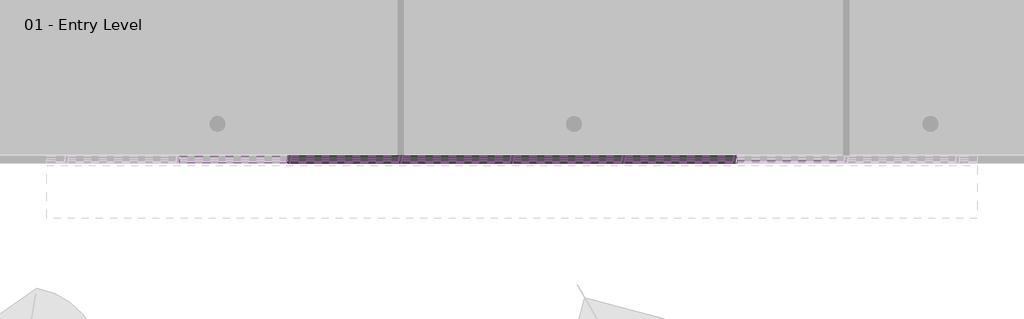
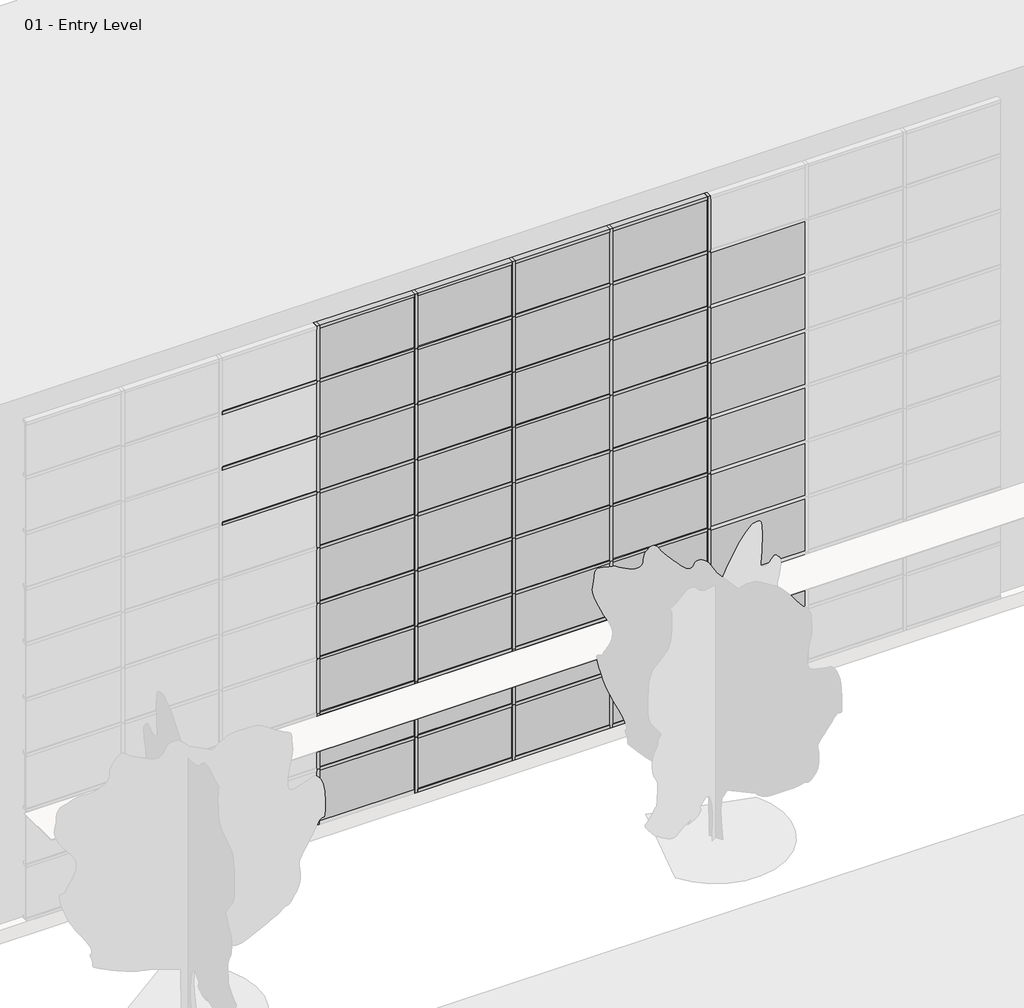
# One storey, part 3 of 34: 88 members, 44 plates.
"""IFC4 building model written with IfcOpenShell, lengths in millimetres."""

from ifc_helpers import new_model, si_unit, origin, place, context, project, spatial, transform, mapped, element, save
from components import member_2b49869a, member_391b434c, member_9e90ae50, system_panel_glazed_1b9d6098, system_panel_glazed_70da479d, system_panel_solid_b376696c, system_panel_solid_77e8b053

model = new_model("IFC4")

# Units and contexts
model_context = context("Model", 3, world=origin())
ifc_project = project(units=[si_unit("LENGTHUNIT", "METRE", prefix="MILLI")], contexts=[model_context])

# Site, building, storey
site = spatial("IfcSite", under=ifc_project)
building = spatial("IfcBuilding", under=site)
storey = spatial("IfcBuildingStorey", under=building, Name="01 - Entry Level", Elevation=0.0)

# Members
placement = place(None, origin())
member_shape = member_2b49869a(model_context)
element("IfcMember", 1, ObjectType="Rectangular Mullion : 2.5\" x 5\" rectangular", at=placement, inside=storey, context=model_context, shape_type="MappedRepresentation", body=[
    mapped(member_shape, transform((30595.2207476, -47.7, 9753.6), x_axis=(1.0, 0.0, 0.0), y_axis=(0.0, -1.0, 0.0), z_axis=(0.0, 0.0, -1.0))),
])
element("IfcMember", 2, ObjectType="Rectangular Mullion : 2.5\" x 5\" rectangular", at=placement, inside=storey, context=model_context, shape_type="MappedRepresentation", body=[
    mapped(member_shape, transform((32627.2207476, -47.7, 9753.6), x_axis=(1.0, 0.0, 0.0), y_axis=(0.0, -1.0, 0.0), z_axis=(0.0, 0.0, -1.0))),
])
element("IfcMember", 3, ObjectType="Rectangular Mullion : 2.5\" x 5\" rectangular", at=placement, inside=storey, context=model_context, shape_type="MappedRepresentation", body=[
    mapped(member_shape, transform((34659.2207476, -47.7, 9753.6), x_axis=(1.0, 0.0, 0.0), y_axis=(0.0, -1.0, 0.0), z_axis=(0.0, 0.0, -1.0))),
])
element("IfcMember", 4, ObjectType="Rectangular Mullion : 2.5\" x 5\" rectangular", at=placement, inside=storey, context=model_context, shape_type="MappedRepresentation", body=[
    mapped(member_shape, transform((36691.2207476, -47.7, 9753.6), x_axis=(1.0, 0.0, 0.0), y_axis=(0.0, -1.0, 0.0), z_axis=(0.0, 0.0, -1.0))),
])
element("IfcMember", 5, ObjectType="Rectangular Mullion : 2.5\" x 5\" rectangular", at=placement, inside=storey, context=model_context, shape_type="MappedRepresentation", body=[
    mapped(member_shape, transform((38723.2207476, -47.7, 9753.6), x_axis=(1.0, 0.0, 0.0), y_axis=(0.0, -1.0, 0.0), z_axis=(0.0, 0.0, -1.0))),
])
member_2_shape = member_391b434c(model_context)
element("IfcMember", 6, ObjectType="Rectangular Mullion : 2.5\" x 5\" rectangular", at=placement, inside=storey, context=model_context, shape_type="MappedRepresentation", body=[
    mapped(member_2_shape, transform((32595.4707476, -47.7, 10972.8), x_axis=(0.0, 0.0, 1.0), y_axis=(0.0, -1.0, 0.0), z_axis=(1.0, 0.0, 0.0))),
])
element("IfcMember", 7, ObjectType="Rectangular Mullion : 2.5\" x 5\" rectangular", at=placement, inside=storey, context=model_context, shape_type="MappedRepresentation", body=[
    mapped(member_2_shape, transform((34627.4707476, -47.7, 10972.8), x_axis=(0.0, 0.0, 1.0), y_axis=(0.0, -1.0, 0.0), z_axis=(1.0, 0.0, 0.0))),
])
element("IfcMember", 8, ObjectType="Rectangular Mullion : 2.5\" x 5\" rectangular", at=placement, inside=storey, context=model_context, shape_type="MappedRepresentation", body=[
    mapped(member_2_shape, transform((36659.4707476, -47.7, 10972.8), x_axis=(0.0, 0.0, 1.0), y_axis=(0.0, -1.0, 0.0), z_axis=(1.0, 0.0, 0.0))),
])
element("IfcMember", 9, ObjectType="Rectangular Mullion : 2.5\" x 5\" rectangular", at=placement, inside=storey, context=model_context, shape_type="MappedRepresentation", body=[
    mapped(member_2_shape, transform((38691.4707476, -47.7, 10972.8), x_axis=(0.0, 0.0, 1.0), y_axis=(0.0, -1.0, 0.0), z_axis=(1.0, 0.0, 0.0))),
])
element("IfcMember", 10, ObjectType="Rectangular Mullion : 2.5\" x 5\" rectangular", at=placement, inside=storey, context=model_context, shape_type="MappedRepresentation", body=[
    mapped(member_2_shape, transform((32658.9707476, -47.7, 0.0), x_axis=(0.0, 0.0, -1.0), y_axis=(0.0, -1.0, 0.0), z_axis=(-1.0, 0.0, 0.0))),
])
element("IfcMember", 11, ObjectType="Rectangular Mullion : 2.5\" x 5\" rectangular", at=placement, inside=storey, context=model_context, shape_type="MappedRepresentation", body=[
    mapped(member_2_shape, transform((34690.9707476, -47.7, 0.0), x_axis=(0.0, 0.0, -1.0), y_axis=(0.0, -1.0, 0.0), z_axis=(-1.0, 0.0, 0.0))),
])
element("IfcMember", 12, ObjectType="Rectangular Mullion : 2.5\" x 5\" rectangular", at=placement, inside=storey, context=model_context, shape_type="MappedRepresentation", body=[
    mapped(member_2_shape, transform((36722.9707476, -47.7, 0.0), x_axis=(0.0, 0.0, -1.0), y_axis=(0.0, -1.0, 0.0), z_axis=(-1.0, 0.0, 0.0))),
])
element("IfcMember", 13, ObjectType="Rectangular Mullion : 2.5\" x 5\" rectangular", at=placement, inside=storey, context=model_context, shape_type="MappedRepresentation", body=[
    mapped(member_2_shape, transform((38754.9707476, -47.7, 0.0), x_axis=(0.0, 0.0, -1.0), y_axis=(0.0, -1.0, 0.0), z_axis=(-1.0, 0.0, 0.0))),
])
member_3_shape = member_9e90ae50(model_context)
element("IfcMember", 14, ObjectType="Rectangular Mullion : 2.5\" x 5\" rectangular", at=placement, inside=storey, context=model_context, shape_type="MappedRepresentation", body=[
    mapped(member_3_shape, transform((32595.4707476, -47.7, 1219.2), x_axis=(0.0, 0.0, 1.0), y_axis=(0.0, -1.0, 0.0), z_axis=(1.0, 0.0, 0.0))),
])
element("IfcMember", 15, ObjectType="Rectangular Mullion : 2.5\" x 5\" rectangular", at=placement, inside=storey, context=model_context, shape_type="MappedRepresentation", body=[
    mapped(member_3_shape, transform((34627.4707476, -47.7, 1219.2), x_axis=(0.0, 0.0, 1.0), y_axis=(0.0, -1.0, 0.0), z_axis=(1.0, 0.0, 0.0))),
])
element("IfcMember", 16, ObjectType="Rectangular Mullion : 2.5\" x 5\" rectangular", at=placement, inside=storey, context=model_context, shape_type="MappedRepresentation", body=[
    mapped(member_3_shape, transform((36659.4707476, -47.7, 1219.2), x_axis=(0.0, 0.0, 1.0), y_axis=(0.0, -1.0, 0.0), z_axis=(1.0, 0.0, 0.0))),
])
element("IfcMember", 17, ObjectType="Rectangular Mullion : 2.5\" x 5\" rectangular", at=placement, inside=storey, context=model_context, shape_type="MappedRepresentation", body=[
    mapped(member_3_shape, transform((38691.4707476, -47.7, 1219.2), x_axis=(0.0, 0.0, 1.0), y_axis=(0.0, -1.0, 0.0), z_axis=(1.0, 0.0, 0.0))),
])
element("IfcMember", 18, ObjectType="Rectangular Mullion : 2.5\" x 5\" rectangular", at=placement, inside=storey, context=model_context, shape_type="MappedRepresentation", body=[
    mapped(member_3_shape, transform((32595.4707476, -47.7, 2438.4), x_axis=(0.0, 0.0, 1.0), y_axis=(0.0, -1.0, 0.0), z_axis=(1.0, 0.0, 0.0))),
])
element("IfcMember", 19, ObjectType="Rectangular Mullion : 2.5\" x 5\" rectangular", at=placement, inside=storey, context=model_context, shape_type="MappedRepresentation", body=[
    mapped(member_3_shape, transform((34627.4707476, -47.7, 2438.4), x_axis=(0.0, 0.0, 1.0), y_axis=(0.0, -1.0, 0.0), z_axis=(1.0, 0.0, 0.0))),
])
element("IfcMember", 20, ObjectType="Rectangular Mullion : 2.5\" x 5\" rectangular", at=placement, inside=storey, context=model_context, shape_type="MappedRepresentation", body=[
    mapped(member_3_shape, transform((36659.4707476, -47.7, 2438.4), x_axis=(0.0, 0.0, 1.0), y_axis=(0.0, -1.0, 0.0), z_axis=(1.0, 0.0, 0.0))),
])
element("IfcMember", 21, ObjectType="Rectangular Mullion : 2.5\" x 5\" rectangular", at=placement, inside=storey, context=model_context, shape_type="MappedRepresentation", body=[
    mapped(member_3_shape, transform((38691.4707476, -47.7, 2438.4), x_axis=(0.0, 0.0, 1.0), y_axis=(0.0, -1.0, 0.0), z_axis=(1.0, 0.0, 0.0))),
])
element("IfcMember", 22, ObjectType="Rectangular Mullion : 2.5\" x 5\" rectangular", at=placement, inside=storey, context=model_context, shape_type="MappedRepresentation", body=[
    mapped(member_3_shape, transform((32595.4707476, -47.7, 3657.6), x_axis=(0.0, 0.0, 1.0), y_axis=(0.0, -1.0, 0.0), z_axis=(1.0, 0.0, 0.0))),
])
element("IfcMember", 23, ObjectType="Rectangular Mullion : 2.5\" x 5\" rectangular", at=placement, inside=storey, context=model_context, shape_type="MappedRepresentation", body=[
    mapped(member_3_shape, transform((34627.4707476, -47.7, 3657.6), x_axis=(0.0, 0.0, 1.0), y_axis=(0.0, -1.0, 0.0), z_axis=(1.0, 0.0, 0.0))),
])
element("IfcMember", 24, ObjectType="Rectangular Mullion : 2.5\" x 5\" rectangular", at=placement, inside=storey, context=model_context, shape_type="MappedRepresentation", body=[
    mapped(member_3_shape, transform((36659.4707476, -47.7, 3657.6), x_axis=(0.0, 0.0, 1.0), y_axis=(0.0, -1.0, 0.0), z_axis=(1.0, 0.0, 0.0))),
])
element("IfcMember", 25, ObjectType="Rectangular Mullion : 2.5\" x 5\" rectangular", at=placement, inside=storey, context=model_context, shape_type="MappedRepresentation", body=[
    mapped(member_3_shape, transform((38691.4707476, -47.7, 3657.6), x_axis=(0.0, 0.0, 1.0), y_axis=(0.0, -1.0, 0.0), z_axis=(1.0, 0.0, 0.0))),
])
element("IfcMember", 26, ObjectType="Rectangular Mullion : 2.5\" x 5\" rectangular", at=placement, inside=storey, context=model_context, shape_type="MappedRepresentation", body=[
    mapped(member_3_shape, transform((32595.4707476, -47.7, 4876.8), x_axis=(0.0, 0.0, 1.0), y_axis=(0.0, -1.0, 0.0), z_axis=(1.0, 0.0, 0.0))),
])
element("IfcMember", 27, ObjectType="Rectangular Mullion : 2.5\" x 5\" rectangular", at=placement, inside=storey, context=model_context, shape_type="MappedRepresentation", body=[
    mapped(member_3_shape, transform((34627.4707476, -47.7, 4876.8), x_axis=(0.0, 0.0, 1.0), y_axis=(0.0, -1.0, 0.0), z_axis=(1.0, 0.0, 0.0))),
])
element("IfcMember", 28, ObjectType="Rectangular Mullion : 2.5\" x 5\" rectangular", at=placement, inside=storey, context=model_context, shape_type="MappedRepresentation", body=[
    mapped(member_3_shape, transform((36659.4707476, -47.7, 4876.8), x_axis=(0.0, 0.0, 1.0), y_axis=(0.0, -1.0, 0.0), z_axis=(1.0, 0.0, 0.0))),
])
element("IfcMember", 29, ObjectType="Rectangular Mullion : 2.5\" x 5\" rectangular", at=placement, inside=storey, context=model_context, shape_type="MappedRepresentation", body=[
    mapped(member_3_shape, transform((38691.4707476, -47.7, 4876.8), x_axis=(0.0, 0.0, 1.0), y_axis=(0.0, -1.0, 0.0), z_axis=(1.0, 0.0, 0.0))),
])
element("IfcMember", 30, ObjectType="Rectangular Mullion : 2.5\" x 5\" rectangular", at=placement, inside=storey, context=model_context, shape_type="MappedRepresentation", body=[
    mapped(member_3_shape, transform((32595.4707476, -47.7, 6096.0), x_axis=(0.0, 0.0, 1.0), y_axis=(0.0, -1.0, 0.0), z_axis=(1.0, 0.0, 0.0))),
])
element("IfcMember", 31, ObjectType="Rectangular Mullion : 2.5\" x 5\" rectangular", at=placement, inside=storey, context=model_context, shape_type="MappedRepresentation", body=[
    mapped(member_3_shape, transform((34627.4707476, -47.7, 6096.0), x_axis=(0.0, 0.0, 1.0), y_axis=(0.0, -1.0, 0.0), z_axis=(1.0, 0.0, 0.0))),
])
element("IfcMember", 32, ObjectType="Rectangular Mullion : 2.5\" x 5\" rectangular", at=placement, inside=storey, context=model_context, shape_type="MappedRepresentation", body=[
    mapped(member_3_shape, transform((36659.4707476, -47.7, 6096.0), x_axis=(0.0, 0.0, 1.0), y_axis=(0.0, -1.0, 0.0), z_axis=(1.0, 0.0, 0.0))),
])
element("IfcMember", 33, ObjectType="Rectangular Mullion : 2.5\" x 5\" rectangular", at=placement, inside=storey, context=model_context, shape_type="MappedRepresentation", body=[
    mapped(member_3_shape, transform((38691.4707476, -47.7, 6096.0), x_axis=(0.0, 0.0, 1.0), y_axis=(0.0, -1.0, 0.0), z_axis=(1.0, 0.0, 0.0))),
])
element("IfcMember", 34, ObjectType="Rectangular Mullion : 2.5\" x 5\" rectangular", at=placement, inside=storey, context=model_context, shape_type="MappedRepresentation", body=[
    mapped(member_3_shape, transform((30563.4707476, -47.7, 7315.2), x_axis=(0.0, 0.0, 1.0), y_axis=(0.0, -1.0, 0.0), z_axis=(1.0, 0.0, 0.0))),
])
element("IfcMember", 35, ObjectType="Rectangular Mullion : 2.5\" x 5\" rectangular", at=placement, inside=storey, context=model_context, shape_type="MappedRepresentation", body=[
    mapped(member_3_shape, transform((32595.4707476, -47.7, 7315.2), x_axis=(0.0, 0.0, 1.0), y_axis=(0.0, -1.0, 0.0), z_axis=(1.0, 0.0, 0.0))),
])
element("IfcMember", 36, ObjectType="Rectangular Mullion : 2.5\" x 5\" rectangular", at=placement, inside=storey, context=model_context, shape_type="MappedRepresentation", body=[
    mapped(member_3_shape, transform((34627.4707476, -47.7, 7315.2), x_axis=(0.0, 0.0, 1.0), y_axis=(0.0, -1.0, 0.0), z_axis=(1.0, 0.0, 0.0))),
])
element("IfcMember", 37, ObjectType="Rectangular Mullion : 2.5\" x 5\" rectangular", at=placement, inside=storey, context=model_context, shape_type="MappedRepresentation", body=[
    mapped(member_3_shape, transform((36659.4707476, -47.7, 7315.2), x_axis=(0.0, 0.0, 1.0), y_axis=(0.0, -1.0, 0.0), z_axis=(1.0, 0.0, 0.0))),
])
element("IfcMember", 38, ObjectType="Rectangular Mullion : 2.5\" x 5\" rectangular", at=placement, inside=storey, context=model_context, shape_type="MappedRepresentation", body=[
    mapped(member_3_shape, transform((38691.4707476, -47.7, 7315.2), x_axis=(0.0, 0.0, 1.0), y_axis=(0.0, -1.0, 0.0), z_axis=(1.0, 0.0, 0.0))),
])
element("IfcMember", 39, ObjectType="Rectangular Mullion : 2.5\" x 5\" rectangular", at=placement, inside=storey, context=model_context, shape_type="MappedRepresentation", body=[
    mapped(member_3_shape, transform((30563.4707476, -47.7, 8534.4), x_axis=(0.0, 0.0, 1.0), y_axis=(0.0, -1.0, 0.0), z_axis=(1.0, 0.0, 0.0))),
])
element("IfcMember", 40, ObjectType="Rectangular Mullion : 2.5\" x 5\" rectangular", at=placement, inside=storey, context=model_context, shape_type="MappedRepresentation", body=[
    mapped(member_3_shape, transform((32595.4707476, -47.7, 8534.4), x_axis=(0.0, 0.0, 1.0), y_axis=(0.0, -1.0, 0.0), z_axis=(1.0, 0.0, 0.0))),
])
element("IfcMember", 41, ObjectType="Rectangular Mullion : 2.5\" x 5\" rectangular", at=placement, inside=storey, context=model_context, shape_type="MappedRepresentation", body=[
    mapped(member_3_shape, transform((34627.4707476, -47.7, 8534.4), x_axis=(0.0, 0.0, 1.0), y_axis=(0.0, -1.0, 0.0), z_axis=(1.0, 0.0, 0.0))),
])
element("IfcMember", 42, ObjectType="Rectangular Mullion : 2.5\" x 5\" rectangular", at=placement, inside=storey, context=model_context, shape_type="MappedRepresentation", body=[
    mapped(member_3_shape, transform((36659.4707476, -47.7, 8534.4), x_axis=(0.0, 0.0, 1.0), y_axis=(0.0, -1.0, 0.0), z_axis=(1.0, 0.0, 0.0))),
])
element("IfcMember", 43, ObjectType="Rectangular Mullion : 2.5\" x 5\" rectangular", at=placement, inside=storey, context=model_context, shape_type="MappedRepresentation", body=[
    mapped(member_3_shape, transform((38691.4707476, -47.7, 8534.4), x_axis=(0.0, 0.0, 1.0), y_axis=(0.0, -1.0, 0.0), z_axis=(1.0, 0.0, 0.0))),
])
element("IfcMember", 44, ObjectType="Rectangular Mullion : 2.5\" x 5\" rectangular", at=placement, inside=storey, context=model_context, shape_type="MappedRepresentation", body=[
    mapped(member_3_shape, transform((30563.4707476, -47.7, 9753.6), x_axis=(0.0, 0.0, 1.0), y_axis=(0.0, -1.0, 0.0), z_axis=(1.0, 0.0, 0.0))),
])
element("IfcMember", 45, ObjectType="Rectangular Mullion : 2.5\" x 5\" rectangular", at=placement, inside=storey, context=model_context, shape_type="MappedRepresentation", body=[
    mapped(member_3_shape, transform((32595.4707476, -47.7, 9753.6), x_axis=(0.0, 0.0, 1.0), y_axis=(0.0, -1.0, 0.0), z_axis=(1.0, 0.0, 0.0))),
])
element("IfcMember", 46, ObjectType="Rectangular Mullion : 2.5\" x 5\" rectangular", at=placement, inside=storey, context=model_context, shape_type="MappedRepresentation", body=[
    mapped(member_3_shape, transform((34627.4707476, -47.7, 9753.6), x_axis=(0.0, 0.0, 1.0), y_axis=(0.0, -1.0, 0.0), z_axis=(1.0, 0.0, 0.0))),
])
element("IfcMember", 47, ObjectType="Rectangular Mullion : 2.5\" x 5\" rectangular", at=placement, inside=storey, context=model_context, shape_type="MappedRepresentation", body=[
    mapped(member_3_shape, transform((36659.4707476, -47.7, 9753.6), x_axis=(0.0, 0.0, 1.0), y_axis=(0.0, -1.0, 0.0), z_axis=(1.0, 0.0, 0.0))),
])
element("IfcMember", 48, ObjectType="Rectangular Mullion : 2.5\" x 5\" rectangular", at=placement, inside=storey, context=model_context, shape_type="MappedRepresentation", body=[
    mapped(member_3_shape, transform((38691.4707476, -47.7, 9753.6), x_axis=(0.0, 0.0, 1.0), y_axis=(0.0, -1.0, 0.0), z_axis=(1.0, 0.0, 0.0))),
])
element("IfcMember", 49, ObjectType="Rectangular Mullion : 2.5\" x 5\" rectangular", at=placement, inside=storey, context=model_context, shape_type="MappedRepresentation", body=[
    mapped(member_shape, transform((30595.2207476, -47.7, 0.0), x_axis=(1.0, 0.0, 0.0), y_axis=(0.0, -1.0, 0.0), z_axis=(0.0, 0.0, -1.0))),
])
element("IfcMember", 50, ObjectType="Rectangular Mullion : 2.5\" x 5\" rectangular", at=placement, inside=storey, context=model_context, shape_type="MappedRepresentation", body=[
    mapped(member_shape, transform((32627.2207476, -47.7, 0.0), x_axis=(1.0, 0.0, 0.0), y_axis=(0.0, -1.0, 0.0), z_axis=(0.0, 0.0, -1.0))),
])
element("IfcMember", 51, ObjectType="Rectangular Mullion : 2.5\" x 5\" rectangular", at=placement, inside=storey, context=model_context, shape_type="MappedRepresentation", body=[
    mapped(member_shape, transform((34659.2207476, -47.7, 0.0), x_axis=(1.0, 0.0, 0.0), y_axis=(0.0, -1.0, 0.0), z_axis=(0.0, 0.0, -1.0))),
])
element("IfcMember", 52, ObjectType="Rectangular Mullion : 2.5\" x 5\" rectangular", at=placement, inside=storey, context=model_context, shape_type="MappedRepresentation", body=[
    mapped(member_shape, transform((36691.2207476, -47.7, 0.0), x_axis=(1.0, 0.0, 0.0), y_axis=(0.0, -1.0, 0.0), z_axis=(0.0, 0.0, -1.0))),
])
element("IfcMember", 53, ObjectType="Rectangular Mullion : 2.5\" x 5\" rectangular", at=placement, inside=storey, context=model_context, shape_type="MappedRepresentation", body=[
    mapped(member_shape, transform((38723.2207476, -47.7, 0.0), x_axis=(1.0, 0.0, 0.0), y_axis=(0.0, -1.0, 0.0), z_axis=(0.0, 0.0, -1.0))),
])
element("IfcMember", 54, ObjectType="Rectangular Mullion : 2.5\" x 5\" rectangular", at=placement, inside=storey, context=model_context, shape_type="MappedRepresentation", body=[
    mapped(member_shape, transform((30595.2207476, -47.7, 1219.2), x_axis=(1.0, 0.0, 0.0), y_axis=(0.0, -1.0, 0.0), z_axis=(0.0, 0.0, -1.0))),
])
element("IfcMember", 55, ObjectType="Rectangular Mullion : 2.5\" x 5\" rectangular", at=placement, inside=storey, context=model_context, shape_type="MappedRepresentation", body=[
    mapped(member_shape, transform((32627.2207476, -47.7, 1219.2), x_axis=(1.0, 0.0, 0.0), y_axis=(0.0, -1.0, 0.0), z_axis=(0.0, 0.0, -1.0))),
])
element("IfcMember", 56, ObjectType="Rectangular Mullion : 2.5\" x 5\" rectangular", at=placement, inside=storey, context=model_context, shape_type="MappedRepresentation", body=[
    mapped(member_shape, transform((34659.2207476, -47.7, 1219.2), x_axis=(1.0, 0.0, 0.0), y_axis=(0.0, -1.0, 0.0), z_axis=(0.0, 0.0, -1.0))),
])
element("IfcMember", 57, ObjectType="Rectangular Mullion : 2.5\" x 5\" rectangular", at=placement, inside=storey, context=model_context, shape_type="MappedRepresentation", body=[
    mapped(member_shape, transform((36691.2207476, -47.7, 1219.2), x_axis=(1.0, 0.0, 0.0), y_axis=(0.0, -1.0, 0.0), z_axis=(0.0, 0.0, -1.0))),
])
element("IfcMember", 58, ObjectType="Rectangular Mullion : 2.5\" x 5\" rectangular", at=placement, inside=storey, context=model_context, shape_type="MappedRepresentation", body=[
    mapped(member_shape, transform((38723.2207476, -47.7, 1219.2), x_axis=(1.0, 0.0, 0.0), y_axis=(0.0, -1.0, 0.0), z_axis=(0.0, 0.0, -1.0))),
])
element("IfcMember", 59, ObjectType="Rectangular Mullion : 2.5\" x 5\" rectangular", at=placement, inside=storey, context=model_context, shape_type="MappedRepresentation", body=[
    mapped(member_shape, transform((30595.2207476, -47.7, 2438.4), x_axis=(1.0, 0.0, 0.0), y_axis=(0.0, -1.0, 0.0), z_axis=(0.0, 0.0, -1.0))),
])
element("IfcMember", 60, ObjectType="Rectangular Mullion : 2.5\" x 5\" rectangular", at=placement, inside=storey, context=model_context, shape_type="MappedRepresentation", body=[
    mapped(member_shape, transform((32627.2207476, -47.7, 2438.4), x_axis=(1.0, 0.0, 0.0), y_axis=(0.0, -1.0, 0.0), z_axis=(0.0, 0.0, -1.0))),
])
element("IfcMember", 61, ObjectType="Rectangular Mullion : 2.5\" x 5\" rectangular", at=placement, inside=storey, context=model_context, shape_type="MappedRepresentation", body=[
    mapped(member_shape, transform((34659.2207476, -47.7, 2438.4), x_axis=(1.0, 0.0, 0.0), y_axis=(0.0, -1.0, 0.0), z_axis=(0.0, 0.0, -1.0))),
])
element("IfcMember", 62, ObjectType="Rectangular Mullion : 2.5\" x 5\" rectangular", at=placement, inside=storey, context=model_context, shape_type="MappedRepresentation", body=[
    mapped(member_shape, transform((36691.2207476, -47.7, 2438.4), x_axis=(1.0, 0.0, 0.0), y_axis=(0.0, -1.0, 0.0), z_axis=(0.0, 0.0, -1.0))),
])
element("IfcMember", 63, ObjectType="Rectangular Mullion : 2.5\" x 5\" rectangular", at=placement, inside=storey, context=model_context, shape_type="MappedRepresentation", body=[
    mapped(member_shape, transform((38723.2207476, -47.7, 2438.4), x_axis=(1.0, 0.0, 0.0), y_axis=(0.0, -1.0, 0.0), z_axis=(0.0, 0.0, -1.0))),
])
element("IfcMember", 64, ObjectType="Rectangular Mullion : 2.5\" x 5\" rectangular", at=placement, inside=storey, context=model_context, shape_type="MappedRepresentation", body=[
    mapped(member_shape, transform((30595.2207476, -47.7, 3657.6), x_axis=(1.0, 0.0, 0.0), y_axis=(0.0, -1.0, 0.0), z_axis=(0.0, 0.0, -1.0))),
])
element("IfcMember", 65, ObjectType="Rectangular Mullion : 2.5\" x 5\" rectangular", at=placement, inside=storey, context=model_context, shape_type="MappedRepresentation", body=[
    mapped(member_shape, transform((32627.2207476, -47.7, 3657.6), x_axis=(1.0, 0.0, 0.0), y_axis=(0.0, -1.0, 0.0), z_axis=(0.0, 0.0, -1.0))),
])
element("IfcMember", 66, ObjectType="Rectangular Mullion : 2.5\" x 5\" rectangular", at=placement, inside=storey, context=model_context, shape_type="MappedRepresentation", body=[
    mapped(member_shape, transform((34659.2207476, -47.7, 3657.6), x_axis=(1.0, 0.0, 0.0), y_axis=(0.0, -1.0, 0.0), z_axis=(0.0, 0.0, -1.0))),
])
element("IfcMember", 67, ObjectType="Rectangular Mullion : 2.5\" x 5\" rectangular", at=placement, inside=storey, context=model_context, shape_type="MappedRepresentation", body=[
    mapped(member_shape, transform((36691.2207476, -47.7, 3657.6), x_axis=(1.0, 0.0, 0.0), y_axis=(0.0, -1.0, 0.0), z_axis=(0.0, 0.0, -1.0))),
])
element("IfcMember", 68, ObjectType="Rectangular Mullion : 2.5\" x 5\" rectangular", at=placement, inside=storey, context=model_context, shape_type="MappedRepresentation", body=[
    mapped(member_shape, transform((38723.2207476, -47.7, 3657.6), x_axis=(1.0, 0.0, 0.0), y_axis=(0.0, -1.0, 0.0), z_axis=(0.0, 0.0, -1.0))),
])
element("IfcMember", 69, ObjectType="Rectangular Mullion : 2.5\" x 5\" rectangular", at=placement, inside=storey, context=model_context, shape_type="MappedRepresentation", body=[
    mapped(member_shape, transform((30595.2207476, -47.7, 4876.8), x_axis=(1.0, 0.0, 0.0), y_axis=(0.0, -1.0, 0.0), z_axis=(0.0, 0.0, -1.0))),
])
element("IfcMember", 70, ObjectType="Rectangular Mullion : 2.5\" x 5\" rectangular", at=placement, inside=storey, context=model_context, shape_type="MappedRepresentation", body=[
    mapped(member_shape, transform((32627.2207476, -47.7, 4876.8), x_axis=(1.0, 0.0, 0.0), y_axis=(0.0, -1.0, 0.0), z_axis=(0.0, 0.0, -1.0))),
])
element("IfcMember", 71, ObjectType="Rectangular Mullion : 2.5\" x 5\" rectangular", at=placement, inside=storey, context=model_context, shape_type="MappedRepresentation", body=[
    mapped(member_shape, transform((34659.2207476, -47.7, 4876.8), x_axis=(1.0, 0.0, 0.0), y_axis=(0.0, -1.0, 0.0), z_axis=(0.0, 0.0, -1.0))),
])
element("IfcMember", 72, ObjectType="Rectangular Mullion : 2.5\" x 5\" rectangular", at=placement, inside=storey, context=model_context, shape_type="MappedRepresentation", body=[
    mapped(member_shape, transform((36691.2207476, -47.7, 4876.8), x_axis=(1.0, 0.0, 0.0), y_axis=(0.0, -1.0, 0.0), z_axis=(0.0, 0.0, -1.0))),
])
element("IfcMember", 73, ObjectType="Rectangular Mullion : 2.5\" x 5\" rectangular", at=placement, inside=storey, context=model_context, shape_type="MappedRepresentation", body=[
    mapped(member_shape, transform((38723.2207476, -47.7, 4876.8), x_axis=(1.0, 0.0, 0.0), y_axis=(0.0, -1.0, 0.0), z_axis=(0.0, 0.0, -1.0))),
])
element("IfcMember", 74, ObjectType="Rectangular Mullion : 2.5\" x 5\" rectangular", at=placement, inside=storey, context=model_context, shape_type="MappedRepresentation", body=[
    mapped(member_shape, transform((30595.2207476, -47.7, 6096.0), x_axis=(1.0, 0.0, 0.0), y_axis=(0.0, -1.0, 0.0), z_axis=(0.0, 0.0, -1.0))),
])
element("IfcMember", 75, ObjectType="Rectangular Mullion : 2.5\" x 5\" rectangular", at=placement, inside=storey, context=model_context, shape_type="MappedRepresentation", body=[
    mapped(member_shape, transform((32627.2207476, -47.7, 6096.0), x_axis=(1.0, 0.0, 0.0), y_axis=(0.0, -1.0, 0.0), z_axis=(0.0, 0.0, -1.0))),
])
element("IfcMember", 76, ObjectType="Rectangular Mullion : 2.5\" x 5\" rectangular", at=placement, inside=storey, context=model_context, shape_type="MappedRepresentation", body=[
    mapped(member_shape, transform((34659.2207476, -47.7, 6096.0), x_axis=(1.0, 0.0, 0.0), y_axis=(0.0, -1.0, 0.0), z_axis=(0.0, 0.0, -1.0))),
])
element("IfcMember", 77, ObjectType="Rectangular Mullion : 2.5\" x 5\" rectangular", at=placement, inside=storey, context=model_context, shape_type="MappedRepresentation", body=[
    mapped(member_shape, transform((36691.2207476, -47.7, 6096.0), x_axis=(1.0, 0.0, 0.0), y_axis=(0.0, -1.0, 0.0), z_axis=(0.0, 0.0, -1.0))),
])
element("IfcMember", 78, ObjectType="Rectangular Mullion : 2.5\" x 5\" rectangular", at=placement, inside=storey, context=model_context, shape_type="MappedRepresentation", body=[
    mapped(member_shape, transform((38723.2207476, -47.7, 6096.0), x_axis=(1.0, 0.0, 0.0), y_axis=(0.0, -1.0, 0.0), z_axis=(0.0, 0.0, -1.0))),
])
element("IfcMember", 79, ObjectType="Rectangular Mullion : 2.5\" x 5\" rectangular", at=placement, inside=storey, context=model_context, shape_type="MappedRepresentation", body=[
    mapped(member_shape, transform((30595.2207476, -47.7, 7315.2), x_axis=(1.0, 0.0, 0.0), y_axis=(0.0, -1.0, 0.0), z_axis=(0.0, 0.0, -1.0))),
])
element("IfcMember", 80, ObjectType="Rectangular Mullion : 2.5\" x 5\" rectangular", at=placement, inside=storey, context=model_context, shape_type="MappedRepresentation", body=[
    mapped(member_shape, transform((32627.2207476, -47.7, 7315.2), x_axis=(1.0, 0.0, 0.0), y_axis=(0.0, -1.0, 0.0), z_axis=(0.0, 0.0, -1.0))),
])
element("IfcMember", 81, ObjectType="Rectangular Mullion : 2.5\" x 5\" rectangular", at=placement, inside=storey, context=model_context, shape_type="MappedRepresentation", body=[
    mapped(member_shape, transform((34659.2207476, -47.7, 7315.2), x_axis=(1.0, 0.0, 0.0), y_axis=(0.0, -1.0, 0.0), z_axis=(0.0, 0.0, -1.0))),
])
element("IfcMember", 82, ObjectType="Rectangular Mullion : 2.5\" x 5\" rectangular", at=placement, inside=storey, context=model_context, shape_type="MappedRepresentation", body=[
    mapped(member_shape, transform((36691.2207476, -47.7, 7315.2), x_axis=(1.0, 0.0, 0.0), y_axis=(0.0, -1.0, 0.0), z_axis=(0.0, 0.0, -1.0))),
])
element("IfcMember", 83, ObjectType="Rectangular Mullion : 2.5\" x 5\" rectangular", at=placement, inside=storey, context=model_context, shape_type="MappedRepresentation", body=[
    mapped(member_shape, transform((38723.2207476, -47.7, 7315.2), x_axis=(1.0, 0.0, 0.0), y_axis=(0.0, -1.0, 0.0), z_axis=(0.0, 0.0, -1.0))),
])
element("IfcMember", 84, ObjectType="Rectangular Mullion : 2.5\" x 5\" rectangular", at=placement, inside=storey, context=model_context, shape_type="MappedRepresentation", body=[
    mapped(member_shape, transform((30595.2207476, -47.7, 8534.4), x_axis=(1.0, 0.0, 0.0), y_axis=(0.0, -1.0, 0.0), z_axis=(0.0, 0.0, -1.0))),
])
element("IfcMember", 85, ObjectType="Rectangular Mullion : 2.5\" x 5\" rectangular", at=placement, inside=storey, context=model_context, shape_type="MappedRepresentation", body=[
    mapped(member_shape, transform((32627.2207476, -47.7, 8534.4), x_axis=(1.0, 0.0, 0.0), y_axis=(0.0, -1.0, 0.0), z_axis=(0.0, 0.0, -1.0))),
])
element("IfcMember", 86, ObjectType="Rectangular Mullion : 2.5\" x 5\" rectangular", at=placement, inside=storey, context=model_context, shape_type="MappedRepresentation", body=[
    mapped(member_shape, transform((34659.2207476, -47.7, 8534.4), x_axis=(1.0, 0.0, 0.0), y_axis=(0.0, -1.0, 0.0), z_axis=(0.0, 0.0, -1.0))),
])
element("IfcMember", 87, ObjectType="Rectangular Mullion : 2.5\" x 5\" rectangular", at=placement, inside=storey, context=model_context, shape_type="MappedRepresentation", body=[
    mapped(member_shape, transform((36691.2207476, -47.7, 8534.4), x_axis=(1.0, 0.0, 0.0), y_axis=(0.0, -1.0, 0.0), z_axis=(0.0, 0.0, -1.0))),
])
element("IfcMember", 88, ObjectType="Rectangular Mullion : 2.5\" x 5\" rectangular", at=placement, inside=storey, context=model_context, shape_type="MappedRepresentation", body=[
    mapped(member_shape, transform((38723.2207476, -47.7, 8534.4), x_axis=(1.0, 0.0, 0.0), y_axis=(0.0, -1.0, 0.0), z_axis=(0.0, 0.0, -1.0))),
])

# Plates
system_panel_glazed_shape = system_panel_glazed_1b9d6098(model_context)
element("IfcPlate", 89, ObjectType="System Panel : Glazed", at=placement, inside=storey, context=model_context, shape_type="MappedRepresentation", body=[
    mapped(system_panel_glazed_shape, transform((31611.2207476, -47.7, 63.5), x_axis=(1.0, 0.0, 0.0), y_axis=(0.0, 1.0, 0.0), z_axis=(0.0, 0.0, 1.0))),
])
element("IfcPlate", 90, ObjectType="System Panel : Glazed", at=placement, inside=storey, context=model_context, shape_type="MappedRepresentation", body=[
    mapped(system_panel_glazed_shape, transform((33643.2207476, -47.7, 63.5), x_axis=(1.0, 0.0, 0.0), y_axis=(0.0, 1.0, 0.0), z_axis=(0.0, 0.0, 1.0))),
])
element("IfcPlate", 91, ObjectType="System Panel : Glazed", at=placement, inside=storey, context=model_context, shape_type="MappedRepresentation", body=[
    mapped(system_panel_glazed_shape, transform((35675.2207476, -47.7, 63.5), x_axis=(1.0, 0.0, 0.0), y_axis=(0.0, 1.0, 0.0), z_axis=(0.0, 0.0, 1.0))),
])
element("IfcPlate", 92, ObjectType="System Panel : Glazed", at=placement, inside=storey, context=model_context, shape_type="MappedRepresentation", body=[
    mapped(system_panel_glazed_shape, transform((37707.2207476, -47.7, 63.5), x_axis=(1.0, 0.0, 0.0), y_axis=(0.0, 1.0, 0.0), z_axis=(0.0, 0.0, 1.0))),
])
element("IfcPlate", 93, ObjectType="System Panel : Glazed", at=placement, inside=storey, context=model_context, shape_type="MappedRepresentation", body=[
    mapped(system_panel_glazed_shape, transform((39739.2207476, -47.7, 63.5), x_axis=(1.0, 0.0, 0.0), y_axis=(0.0, 1.0, 0.0), z_axis=(0.0, 0.0, 1.0))),
])
system_panel_glazed_2_shape = system_panel_glazed_70da479d(model_context)
element("IfcPlate", 94, ObjectType="System Panel : Glazed", at=placement, inside=storey, context=model_context, shape_type="MappedRepresentation", body=[
    mapped(system_panel_glazed_2_shape, transform((31611.2207476, -47.7, 1250.95), x_axis=(1.0, 0.0, 0.0), y_axis=(0.0, 1.0, 0.0), z_axis=(0.0, 0.0, 1.0))),
])
element("IfcPlate", 95, ObjectType="System Panel : Glazed", at=placement, inside=storey, context=model_context, shape_type="MappedRepresentation", body=[
    mapped(system_panel_glazed_2_shape, transform((33643.2207476, -47.7, 1250.95), x_axis=(1.0, 0.0, 0.0), y_axis=(0.0, 1.0, 0.0), z_axis=(0.0, 0.0, 1.0))),
])
element("IfcPlate", 96, ObjectType="System Panel : Glazed", at=placement, inside=storey, context=model_context, shape_type="MappedRepresentation", body=[
    mapped(system_panel_glazed_2_shape, transform((35675.2207476, -47.7, 1250.95), x_axis=(1.0, 0.0, 0.0), y_axis=(0.0, 1.0, 0.0), z_axis=(0.0, 0.0, 1.0))),
])
element("IfcPlate", 97, ObjectType="System Panel : Glazed", at=placement, inside=storey, context=model_context, shape_type="MappedRepresentation", body=[
    mapped(system_panel_glazed_2_shape, transform((37707.2207476, -47.7, 1250.95), x_axis=(1.0, 0.0, 0.0), y_axis=(0.0, 1.0, 0.0), z_axis=(0.0, 0.0, 1.0))),
])
element("IfcPlate", 98, ObjectType="System Panel : Glazed", at=placement, inside=storey, context=model_context, shape_type="MappedRepresentation", body=[
    mapped(system_panel_glazed_2_shape, transform((39739.2207476, -47.7, 1250.95), x_axis=(1.0, 0.0, 0.0), y_axis=(0.0, 1.0, 0.0), z_axis=(0.0, 0.0, 1.0))),
])
element("IfcPlate", 99, ObjectType="System Panel : Glazed", at=placement, inside=storey, context=model_context, shape_type="MappedRepresentation", body=[
    mapped(system_panel_glazed_2_shape, transform((31611.2207476, -47.7, 3689.35), x_axis=(1.0, 0.0, 0.0), y_axis=(0.0, 1.0, 0.0), z_axis=(0.0, 0.0, 1.0))),
])
element("IfcPlate", 100, ObjectType="System Panel : Glazed", at=placement, inside=storey, context=model_context, shape_type="MappedRepresentation", body=[
    mapped(system_panel_glazed_2_shape, transform((33643.2207476, -47.7, 3689.35), x_axis=(1.0, 0.0, 0.0), y_axis=(0.0, 1.0, 0.0), z_axis=(0.0, 0.0, 1.0))),
])
element("IfcPlate", 101, ObjectType="System Panel : Glazed", at=placement, inside=storey, context=model_context, shape_type="MappedRepresentation", body=[
    mapped(system_panel_glazed_2_shape, transform((35675.2207476, -47.7, 3689.35), x_axis=(1.0, 0.0, 0.0), y_axis=(0.0, 1.0, 0.0), z_axis=(0.0, 0.0, 1.0))),
])
element("IfcPlate", 102, ObjectType="System Panel : Glazed", at=placement, inside=storey, context=model_context, shape_type="MappedRepresentation", body=[
    mapped(system_panel_glazed_2_shape, transform((37707.2207476, -47.7, 3689.35), x_axis=(1.0, 0.0, 0.0), y_axis=(0.0, 1.0, 0.0), z_axis=(0.0, 0.0, 1.0))),
])
element("IfcPlate", 103, ObjectType="System Panel : Glazed", at=placement, inside=storey, context=model_context, shape_type="MappedRepresentation", body=[
    mapped(system_panel_glazed_2_shape, transform((39739.2207476, -47.7, 3689.35), x_axis=(1.0, 0.0, 0.0), y_axis=(0.0, 1.0, 0.0), z_axis=(0.0, 0.0, 1.0))),
])
element("IfcPlate", 104, ObjectType="System Panel : Glazed", at=placement, inside=storey, context=model_context, shape_type="MappedRepresentation", body=[
    mapped(system_panel_glazed_2_shape, transform((31611.2207476, -47.7, 4908.55), x_axis=(1.0, 0.0, 0.0), y_axis=(0.0, 1.0, 0.0), z_axis=(0.0, 0.0, 1.0))),
])
element("IfcPlate", 105, ObjectType="System Panel : Glazed", at=placement, inside=storey, context=model_context, shape_type="MappedRepresentation", body=[
    mapped(system_panel_glazed_2_shape, transform((33643.2207476, -47.7, 4908.55), x_axis=(1.0, 0.0, 0.0), y_axis=(0.0, 1.0, 0.0), z_axis=(0.0, 0.0, 1.0))),
])
element("IfcPlate", 106, ObjectType="System Panel : Glazed", at=placement, inside=storey, context=model_context, shape_type="MappedRepresentation", body=[
    mapped(system_panel_glazed_2_shape, transform((35675.2207476, -47.7, 4908.55), x_axis=(1.0, 0.0, 0.0), y_axis=(0.0, 1.0, 0.0), z_axis=(0.0, 0.0, 1.0))),
])
element("IfcPlate", 107, ObjectType="System Panel : Glazed", at=placement, inside=storey, context=model_context, shape_type="MappedRepresentation", body=[
    mapped(system_panel_glazed_2_shape, transform((37707.2207476, -47.7, 4908.55), x_axis=(1.0, 0.0, 0.0), y_axis=(0.0, 1.0, 0.0), z_axis=(0.0, 0.0, 1.0))),
])
element("IfcPlate", 108, ObjectType="System Panel : Glazed", at=placement, inside=storey, context=model_context, shape_type="MappedRepresentation", body=[
    mapped(system_panel_glazed_2_shape, transform((39739.2207476, -47.7, 4908.55), x_axis=(1.0, 0.0, 0.0), y_axis=(0.0, 1.0, 0.0), z_axis=(0.0, 0.0, 1.0))),
])
element("IfcPlate", 109, ObjectType="System Panel : Glazed", at=placement, inside=storey, context=model_context, shape_type="MappedRepresentation", body=[
    mapped(system_panel_glazed_2_shape, transform((31611.2207476, -47.7, 7346.95), x_axis=(1.0, 0.0, 0.0), y_axis=(0.0, 1.0, 0.0), z_axis=(0.0, 0.0, 1.0))),
])
element("IfcPlate", 110, ObjectType="System Panel : Glazed", at=placement, inside=storey, context=model_context, shape_type="MappedRepresentation", body=[
    mapped(system_panel_glazed_2_shape, transform((33643.2207476, -47.7, 7346.95), x_axis=(1.0, 0.0, 0.0), y_axis=(0.0, 1.0, 0.0), z_axis=(0.0, 0.0, 1.0))),
])
element("IfcPlate", 111, ObjectType="System Panel : Glazed", at=placement, inside=storey, context=model_context, shape_type="MappedRepresentation", body=[
    mapped(system_panel_glazed_2_shape, transform((35675.2207476, -47.7, 7346.95), x_axis=(1.0, 0.0, 0.0), y_axis=(0.0, 1.0, 0.0), z_axis=(0.0, 0.0, 1.0))),
])
element("IfcPlate", 112, ObjectType="System Panel : Glazed", at=placement, inside=storey, context=model_context, shape_type="MappedRepresentation", body=[
    mapped(system_panel_glazed_2_shape, transform((37707.2207476, -47.7, 7346.95), x_axis=(1.0, 0.0, 0.0), y_axis=(0.0, 1.0, 0.0), z_axis=(0.0, 0.0, 1.0))),
])
element("IfcPlate", 113, ObjectType="System Panel : Glazed", at=placement, inside=storey, context=model_context, shape_type="MappedRepresentation", body=[
    mapped(system_panel_glazed_2_shape, transform((39739.2207476, -47.7, 7346.95), x_axis=(1.0, 0.0, 0.0), y_axis=(0.0, 1.0, 0.0), z_axis=(0.0, 0.0, 1.0))),
])
element("IfcPlate", 114, ObjectType="System Panel : Glazed", at=placement, inside=storey, context=model_context, shape_type="MappedRepresentation", body=[
    mapped(system_panel_glazed_2_shape, transform((31611.2207476, -47.7, 8566.15), x_axis=(1.0, 0.0, 0.0), y_axis=(0.0, 1.0, 0.0), z_axis=(0.0, 0.0, 1.0))),
])
element("IfcPlate", 115, ObjectType="System Panel : Glazed", at=placement, inside=storey, context=model_context, shape_type="MappedRepresentation", body=[
    mapped(system_panel_glazed_2_shape, transform((33643.2207476, -47.7, 8566.15), x_axis=(1.0, 0.0, 0.0), y_axis=(0.0, 1.0, 0.0), z_axis=(0.0, 0.0, 1.0))),
])
element("IfcPlate", 116, ObjectType="System Panel : Glazed", at=placement, inside=storey, context=model_context, shape_type="MappedRepresentation", body=[
    mapped(system_panel_glazed_2_shape, transform((35675.2207476, -47.7, 8566.15), x_axis=(1.0, 0.0, 0.0), y_axis=(0.0, 1.0, 0.0), z_axis=(0.0, 0.0, 1.0))),
])
element("IfcPlate", 117, ObjectType="System Panel : Glazed", at=placement, inside=storey, context=model_context, shape_type="MappedRepresentation", body=[
    mapped(system_panel_glazed_2_shape, transform((37707.2207476, -47.7, 8566.15), x_axis=(1.0, 0.0, 0.0), y_axis=(0.0, 1.0, 0.0), z_axis=(0.0, 0.0, 1.0))),
])
element("IfcPlate", 118, ObjectType="System Panel : Glazed", at=placement, inside=storey, context=model_context, shape_type="MappedRepresentation", body=[
    mapped(system_panel_glazed_2_shape, transform((39739.2207476, -47.7, 8566.15), x_axis=(1.0, 0.0, 0.0), y_axis=(0.0, 1.0, 0.0), z_axis=(0.0, 0.0, 1.0))),
])
system_panel_solid_shape = system_panel_solid_b376696c(model_context)
element("IfcPlate", 119, ObjectType="System Panel : Solid", at=placement, inside=storey, context=model_context, shape_type="MappedRepresentation", body=[
    mapped(system_panel_solid_shape, transform((31611.2207476, -47.7, 9785.35), x_axis=(1.0, 0.0, 0.0), y_axis=(0.0, 1.0, 0.0), z_axis=(0.0, 0.0, 1.0))),
])
element("IfcPlate", 120, ObjectType="System Panel : Solid", at=placement, inside=storey, context=model_context, shape_type="MappedRepresentation", body=[
    mapped(system_panel_solid_shape, transform((33643.2207476, -47.7, 9785.35), x_axis=(1.0, 0.0, 0.0), y_axis=(0.0, 1.0, 0.0), z_axis=(0.0, 0.0, 1.0))),
])
element("IfcPlate", 121, ObjectType="System Panel : Solid", at=placement, inside=storey, context=model_context, shape_type="MappedRepresentation", body=[
    mapped(system_panel_solid_shape, transform((35675.2207476, -47.7, 9785.35), x_axis=(1.0, 0.0, 0.0), y_axis=(0.0, 1.0, 0.0), z_axis=(0.0, 0.0, 1.0))),
])
element("IfcPlate", 122, ObjectType="System Panel : Solid", at=placement, inside=storey, context=model_context, shape_type="MappedRepresentation", body=[
    mapped(system_panel_solid_shape, transform((37707.2207476, -47.7, 9785.35), x_axis=(1.0, 0.0, 0.0), y_axis=(0.0, 1.0, 0.0), z_axis=(0.0, 0.0, 1.0))),
])
system_panel_solid_2_shape = system_panel_solid_77e8b053(model_context)
element("IfcPlate", 123, ObjectType="System Panel : Solid", at=placement, inside=storey, context=model_context, shape_type="MappedRepresentation", body=[
    mapped(system_panel_solid_2_shape, transform((31611.2207476, -47.7, 2470.15), x_axis=(1.0, 0.0, 0.0), y_axis=(0.0, 1.0, 0.0), z_axis=(0.0, 0.0, 1.0))),
])
element("IfcPlate", 124, ObjectType="System Panel : Solid", at=placement, inside=storey, context=model_context, shape_type="MappedRepresentation", body=[
    mapped(system_panel_solid_2_shape, transform((33643.2207476, -47.7, 2470.15), x_axis=(1.0, 0.0, 0.0), y_axis=(0.0, 1.0, 0.0), z_axis=(0.0, 0.0, 1.0))),
])
element("IfcPlate", 125, ObjectType="System Panel : Solid", at=placement, inside=storey, context=model_context, shape_type="MappedRepresentation", body=[
    mapped(system_panel_solid_2_shape, transform((35675.2207476, -47.7, 2470.15), x_axis=(1.0, 0.0, 0.0), y_axis=(0.0, 1.0, 0.0), z_axis=(0.0, 0.0, 1.0))),
])
element("IfcPlate", 126, ObjectType="System Panel : Solid", at=placement, inside=storey, context=model_context, shape_type="MappedRepresentation", body=[
    mapped(system_panel_solid_2_shape, transform((37707.2207476, -47.7, 2470.15), x_axis=(1.0, 0.0, 0.0), y_axis=(0.0, 1.0, 0.0), z_axis=(0.0, 0.0, 1.0))),
])
element("IfcPlate", 127, ObjectType="System Panel : Solid", at=placement, inside=storey, context=model_context, shape_type="MappedRepresentation", body=[
    mapped(system_panel_solid_2_shape, transform((39739.2207476, -47.7, 2470.15), x_axis=(1.0, 0.0, 0.0), y_axis=(0.0, 1.0, 0.0), z_axis=(0.0, 0.0, 1.0))),
])
element("IfcPlate", 128, ObjectType="System Panel : Solid", at=placement, inside=storey, context=model_context, shape_type="MappedRepresentation", body=[
    mapped(system_panel_solid_2_shape, transform((31611.2207476, -47.7, 6127.75), x_axis=(1.0, 0.0, 0.0), y_axis=(0.0, 1.0, 0.0), z_axis=(0.0, 0.0, 1.0))),
])
element("IfcPlate", 129, ObjectType="System Panel : Solid", at=placement, inside=storey, context=model_context, shape_type="MappedRepresentation", body=[
    mapped(system_panel_solid_2_shape, transform((33643.2207476, -47.7, 6127.75), x_axis=(1.0, 0.0, 0.0), y_axis=(0.0, 1.0, 0.0), z_axis=(0.0, 0.0, 1.0))),
])
element("IfcPlate", 130, ObjectType="System Panel : Solid", at=placement, inside=storey, context=model_context, shape_type="MappedRepresentation", body=[
    mapped(system_panel_solid_2_shape, transform((35675.2207476, -47.7, 6127.75), x_axis=(1.0, 0.0, 0.0), y_axis=(0.0, 1.0, 0.0), z_axis=(0.0, 0.0, 1.0))),
])
element("IfcPlate", 131, ObjectType="System Panel : Solid", at=placement, inside=storey, context=model_context, shape_type="MappedRepresentation", body=[
    mapped(system_panel_solid_2_shape, transform((37707.2207476, -47.7, 6127.75), x_axis=(1.0, 0.0, 0.0), y_axis=(0.0, 1.0, 0.0), z_axis=(0.0, 0.0, 1.0))),
])
element("IfcPlate", 132, ObjectType="System Panel : Solid", at=placement, inside=storey, context=model_context, shape_type="MappedRepresentation", body=[
    mapped(system_panel_solid_2_shape, transform((39739.2207476, -47.7, 6127.75), x_axis=(1.0, 0.0, 0.0), y_axis=(0.0, 1.0, 0.0), z_axis=(0.0, 0.0, 1.0))),
])

save(model, "model.ifc")
